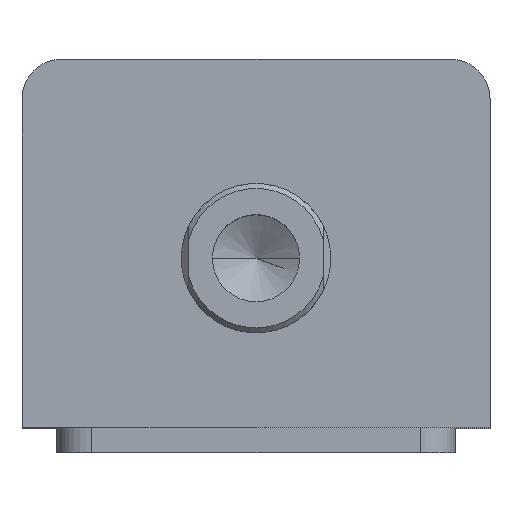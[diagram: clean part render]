
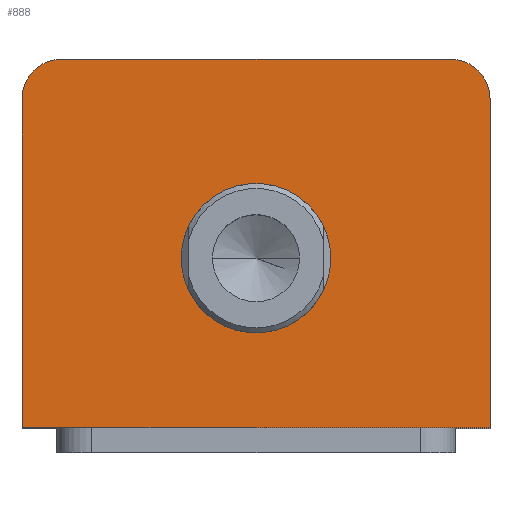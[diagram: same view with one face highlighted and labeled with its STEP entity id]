
A CAD part, top view. The second image highlights one B-rep face of the part: STEP entity #888.
In plain terms, the highlighted planar face has unit normal (0, 0, 1).
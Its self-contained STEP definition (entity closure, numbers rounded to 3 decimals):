
#18 = LINE ( 'NONE', #2315, #21 ) ;
#21 = VECTOR ( 'NONE', #2369, 1000. ) ;
#70 = LINE ( 'NONE', #2259, #73 ) ;
#73 = VECTOR ( 'NONE', #2258, 1000. ) ;
#128 = FACE_BOUND ( 'NONE', #2401, .T. ) ;
#133 = FACE_OUTER_BOUND ( 'NONE', #2481, .T. ) ;
#498 = DIRECTION ( 'NONE',  ( 1., 0., 0. ) ) ;
#499 = DIRECTION ( 'NONE',  ( 0., 0., 1. ) ) ;
#500 = CARTESIAN_POINT ( 'NONE',  ( 39., 29., 140. ) ) ;
#565 = DIRECTION ( 'NONE',  ( 1., 0., 0. ) ) ;
#566 = DIRECTION ( 'NONE',  ( 0., 0., 1. ) ) ;
#567 = CARTESIAN_POINT ( 'NONE',  ( 0., -3., 140. ) ) ;
#639 = EDGE_CURVE ( 'NONE', #1950, #1863, #1971, .T. ) ;
#653 = EDGE_CURVE ( 'NONE', #3013, #1927, #2222, .T. ) ;
#663 = EDGE_CURVE ( 'NONE', #1907, #1887, #2210, .T. ) ;
#669 = EDGE_CURVE ( 'NONE', #1859, #1860, #2202, .T. ) ;
#677 = EDGE_CURVE ( 'NONE', #1887, #1859, #2005, .T. ) ;
#686 = EDGE_CURVE ( 'NONE', #1863, #1950, #2932, .T. ) ;
#735 = EDGE_CURVE ( 'NONE', #1927, #1907, #18, .T. ) ;
#765 = EDGE_CURVE ( 'NONE', #1860, #3013, #70, .T. ) ;
#779 = AXIS2_PLACEMENT_3D ( 'NONE', #567, #566, #565 ) ;
#788 = AXIS2_PLACEMENT_3D ( 'NONE', #500, #499, #498 ) ;
#796 = AXIS2_PLACEMENT_3D ( 'NONE', #2776, #2787, #2778 ) ;
#801 = AXIS2_PLACEMENT_3D ( 'NONE', #2838, #2836, #2837 ) ;
#888 = ADVANCED_FACE ( 'NONE', ( #128, #133 ), #2085, .T. ) ;
#1197 = CARTESIAN_POINT ( 'NONE',  ( -47., -37., 140. ) ) ;
#1200 = CARTESIAN_POINT ( 'NONE',  ( 47., -37., 140. ) ) ;
#1202 = CARTESIAN_POINT ( 'NONE',  ( 15., -3., 140. ) ) ;
#1221 = CARTESIAN_POINT ( 'NONE',  ( -47., 29., 140. ) ) ;
#1240 = CARTESIAN_POINT ( 'NONE',  ( -39., 37., 140. ) ) ;
#1257 = CARTESIAN_POINT ( 'NONE',  ( 39., 37., 140. ) ) ;
#1269 = CARTESIAN_POINT ( 'NONE',  ( -15., -3., 140. ) ) ;
#1324 = CARTESIAN_POINT ( 'NONE',  ( 47., 29., 140. ) ) ;
#1462 = AXIS2_PLACEMENT_3D ( 'NONE', #2086, #2077, #2076 ) ;
#1859 = VERTEX_POINT ( 'NONE', #1197 ) ;
#1860 = VERTEX_POINT ( 'NONE', #1200 ) ;
#1863 = VERTEX_POINT ( 'NONE', #1202 ) ;
#1887 = VERTEX_POINT ( 'NONE', #1221 ) ;
#1907 = VERTEX_POINT ( 'NONE', #1240 ) ;
#1927 = VERTEX_POINT ( 'NONE', #1257 ) ;
#1950 = VERTEX_POINT ( 'NONE', #1269 ) ;
#1971 = CIRCLE ( 'NONE', #779, 15. ) ;
#2005 = LINE ( 'NONE', #2896, #2011 ) ;
#2011 = VECTOR ( 'NONE', #2898, 1000. ) ;
#2076 = DIRECTION ( 'NONE',  ( 1., 0., 0. ) ) ;
#2077 = DIRECTION ( 'NONE',  ( 0., 0., 1. ) ) ;
#2085 = PLANE ( 'NONE',  #1462 ) ;
#2086 = CARTESIAN_POINT ( 'NONE',  ( 0., 0., 140. ) ) ;
#2199 = VECTOR ( 'NONE', #2877, 1000. ) ;
#2202 = LINE ( 'NONE', #2876, #2199 ) ;
#2210 = CIRCLE ( 'NONE', #796, 8. ) ;
#2222 = CIRCLE ( 'NONE', #788, 8. ) ;
#2258 = DIRECTION ( 'NONE',  ( 0., 1., 0. ) ) ;
#2259 = CARTESIAN_POINT ( 'NONE',  ( 47., 37., 140. ) ) ;
#2315 = CARTESIAN_POINT ( 'NONE',  ( -47., 37., 140. ) ) ;
#2369 = DIRECTION ( 'NONE',  ( -1., 0., 0. ) ) ;
#2401 = EDGE_LOOP ( 'NONE', ( #2623, #2622 ) ) ;
#2481 = EDGE_LOOP ( 'NONE', ( #2620, #2618, #2617, #2616, #2614, #2613 ) ) ;
#2613 = ORIENTED_EDGE ( 'NONE', *, *, #653, .T. ) ;
#2614 = ORIENTED_EDGE ( 'NONE', *, *, #765, .T. ) ;
#2616 = ORIENTED_EDGE ( 'NONE', *, *, #669, .T. ) ;
#2617 = ORIENTED_EDGE ( 'NONE', *, *, #677, .T. ) ;
#2618 = ORIENTED_EDGE ( 'NONE', *, *, #663, .T. ) ;
#2620 = ORIENTED_EDGE ( 'NONE', *, *, #735, .T. ) ;
#2622 = ORIENTED_EDGE ( 'NONE', *, *, #639, .F. ) ;
#2623 = ORIENTED_EDGE ( 'NONE', *, *, #686, .F. ) ;
#2776 = CARTESIAN_POINT ( 'NONE',  ( -39., 29., 140. ) ) ;
#2778 = DIRECTION ( 'NONE',  ( 1., 0., 0. ) ) ;
#2787 = DIRECTION ( 'NONE',  ( 0., 0., 1. ) ) ;
#2836 = DIRECTION ( 'NONE',  ( 0., 0., 1. ) ) ;
#2837 = DIRECTION ( 'NONE',  ( 1., 0., 0. ) ) ;
#2838 = CARTESIAN_POINT ( 'NONE',  ( 0., -3., 140. ) ) ;
#2876 = CARTESIAN_POINT ( 'NONE',  ( -47., -37., 140. ) ) ;
#2877 = DIRECTION ( 'NONE',  ( 1., 0., 0. ) ) ;
#2896 = CARTESIAN_POINT ( 'NONE',  ( -47., 37., 140. ) ) ;
#2898 = DIRECTION ( 'NONE',  ( 0., -1., 0. ) ) ;
#2932 = CIRCLE ( 'NONE', #801, 15. ) ;
#3013 = VERTEX_POINT ( 'NONE', #1324 ) ;
